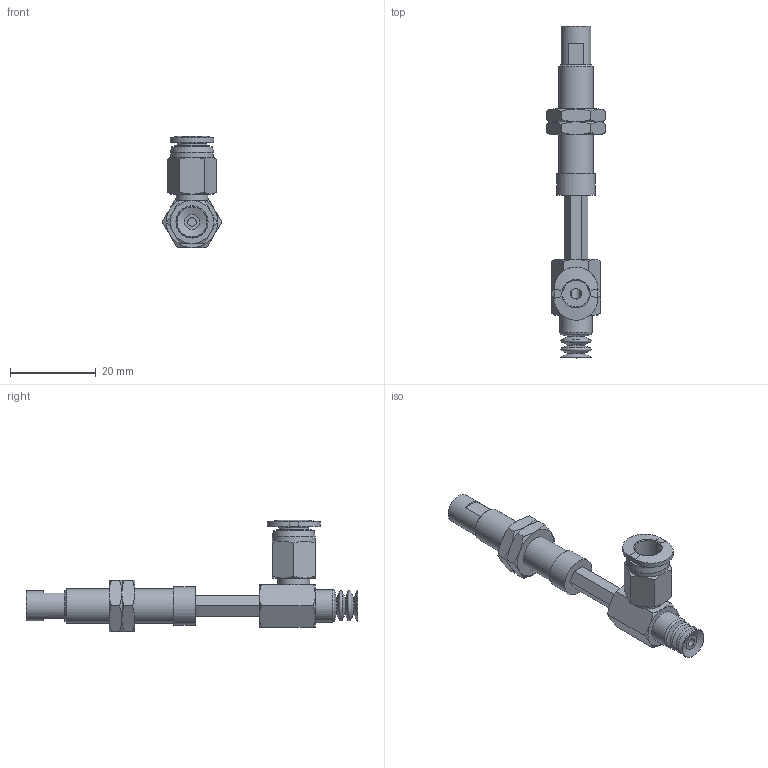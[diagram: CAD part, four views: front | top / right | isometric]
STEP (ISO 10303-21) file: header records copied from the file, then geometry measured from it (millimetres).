
FILE_DESCRIPTION(('STEP AP203'),'1');
FILE_NAME('-O.stp','2025-04-03T07:48:13',(' '),(' '),'Spatial InterOp 3D',' ',' ');
FILE_SCHEMA(('CONFIG_CONTROL_DESIGN'));
Length unit declared in the file: millimetre
Products named in the file (7): BNABPCYH-7-15-※-O; Connector_h-7-15; Nut napc_h-7-15; NAPCTH-7-15-FBODY; NAPCTH-7-15-MBODY; BPCG-7-※; PC-C_06-M5
Assembly tree (7 placements, depth 2):
  BNABPCYH-7-15-※-O
    Connector_h-7-15
    Nut napc_h-7-15  x2
    NAPCTH-7-15-FBODY
    NAPCTH-7-15-MBODY
    BPCG-7-※
    PC-C_06-M5
Bounding box: 13.86 x 77.5 x 25.98 mm (x, y, z)
Volume: 3884.5 mm3; surface area: 5960.2 mm2
Topology: 6 solids, 9 shells, 197 faces, 412 edges, 247 vertices
Faces by surface type: plane 80, cone 71, cylinder 24, torus 15, bspline 4, revolution 3
Full cylindrical faces by diameter (mm): 2 x2, 4 x4, 4.134 x2, 5 x2, 6 x2, 7 x2, 7.188 x2, 7.4 x1, 7.5 x1, 8 x1, 8.2 x1, 9 x1, 10 x1
Entity records: 5096 total; most frequent: CARTESIAN_POINT 1395, DIRECTION 693, ORIENTED_EDGE 600, EDGE_CURVE 302, AXIS2_PLACEMENT_3D 298, EDGE_LOOP 258, VERTEX_POINT 214, FACE_OUTER_BOUND 150
